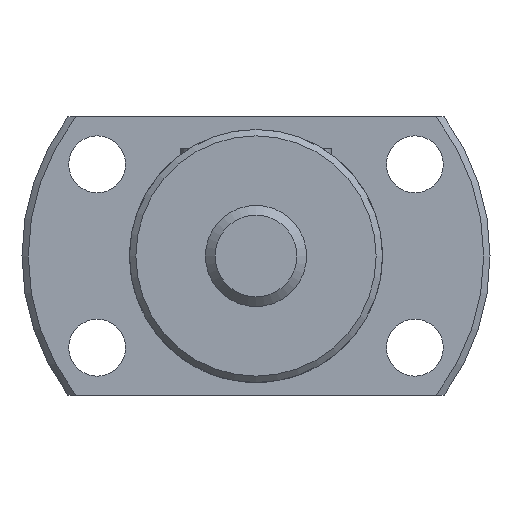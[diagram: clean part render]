
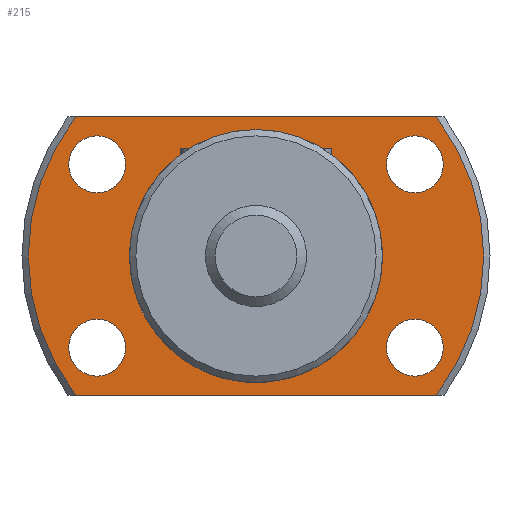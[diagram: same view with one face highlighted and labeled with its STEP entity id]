
A CAD part, left-side view. The second image highlights one B-rep face of the part: STEP entity #215.
In plain terms, the highlighted planar face has unit normal (-1, 0, 0) as drawn and (1, 0, 0) by its records, which use the part's own axes.
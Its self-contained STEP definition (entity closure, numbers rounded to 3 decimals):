
#215 = ADVANCED_FACE( '', ( #347, #348, #349, #350, #351, #352 ), #353, .T. );
#347 = FACE_OUTER_BOUND( '', #518, .T. );
#348 = FACE_BOUND( '', #519, .T. );
#349 = FACE_BOUND( '', #520, .T. );
#350 = FACE_BOUND( '', #521, .T. );
#351 = FACE_BOUND( '', #522, .T. );
#352 = FACE_BOUND( '', #523, .T. );
#353 = PLANE( '', #524 );
#518 = EDGE_LOOP( '', ( #908, #909, #910, #911 ) );
#519 = EDGE_LOOP( '', ( #912 ) );
#520 = EDGE_LOOP( '', ( #913 ) );
#521 = EDGE_LOOP( '', ( #914 ) );
#522 = EDGE_LOOP( '', ( #915 ) );
#523 = EDGE_LOOP( '', ( #916 ) );
#524 = AXIS2_PLACEMENT_3D( '', #917, #918, #919 );
#908 = ORIENTED_EDGE( '', *, *, #1183, .T. );
#909 = ORIENTED_EDGE( '', *, *, #1178, .T. );
#910 = ORIENTED_EDGE( '', *, *, #1177, .T. );
#911 = ORIENTED_EDGE( '', *, *, #1184, .T. );
#912 = ORIENTED_EDGE( '', *, *, #1185, .F. );
#913 = ORIENTED_EDGE( '', *, *, #1182, .F. );
#914 = ORIENTED_EDGE( '', *, *, #1186, .F. );
#915 = ORIENTED_EDGE( '', *, *, #1187, .F. );
#916 = ORIENTED_EDGE( '', *, *, #1188, .F. );
#917 = CARTESIAN_POINT( '', ( 5., 9.8, 0. ) );
#918 = DIRECTION( '', ( 1., 0., 0. ) );
#919 = DIRECTION( '', ( 0., 0., -1. ) );
#1177 = EDGE_CURVE( '', #1387, #1400, #1402, .T. );
#1178 = EDGE_CURVE( '', #1403, #1387, #1404, .T. );
#1182 = EDGE_CURVE( '', #1410, #1410, #1411, .T. );
#1183 = EDGE_CURVE( '', #1412, #1403, #1413, .T. );
#1184 = EDGE_CURVE( '', #1400, #1412, #1414, .T. );
#1185 = EDGE_CURVE( '', #1415, #1415, #1416, .T. );
#1186 = EDGE_CURVE( '', #1417, #1417, #1418, .T. );
#1187 = EDGE_CURVE( '', #1419, #1419, #1420, .T. );
#1188 = EDGE_CURVE( '', #1421, #1421, #1422, .T. );
#1387 = VERTEX_POINT( '', #1739 );
#1400 = VERTEX_POINT( '', #1764 );
#1402 = LINE( '', #1769, #1770 );
#1403 = VERTEX_POINT( '', #1771 );
#1404 = CIRCLE( '', #1772, 18. );
#1410 = VERTEX_POINT( '', #1781 );
#1411 = CIRCLE( '', #1782, 2.25 );
#1412 = VERTEX_POINT( '', #1783 );
#1413 = LINE( '', #1784, #1785 );
#1414 = CIRCLE( '', #1786, 18. );
#1415 = VERTEX_POINT( '', #1787 );
#1416 = CIRCLE( '', #1788, 9.8 );
#1417 = VERTEX_POINT( '', #1789 );
#1418 = CIRCLE( '', #1790, 2.25 );
#1419 = VERTEX_POINT( '', #1791 );
#1420 = CIRCLE( '', #1792, 2.25 );
#1421 = VERTEX_POINT( '', #1793 );
#1422 = CIRCLE( '', #1794, 2.25 );
#1739 = CARTESIAN_POINT( '', ( 5., 14.248, 11. ) );
#1764 = CARTESIAN_POINT( '', ( 5., -14.248, 11. ) );
#1769 = CARTESIAN_POINT( '', ( 5., 18.5, 11. ) );
#1770 = VECTOR( '', #2037, 1000. );
#1771 = CARTESIAN_POINT( '', ( 5., 14.248, -11. ) );
#1772 = AXIS2_PLACEMENT_3D( '', #2038, #2039, #2040 );
#1781 = CARTESIAN_POINT( '', ( 5., 12.557, 5. ) );
#1782 = AXIS2_PLACEMENT_3D( '', #2047, #2048, #2049 );
#1783 = CARTESIAN_POINT( '', ( 5., -14.248, -11. ) );
#1784 = CARTESIAN_POINT( '', ( 5., -18.5, -11. ) );
#1785 = VECTOR( '', #2050, 1000. );
#1786 = AXIS2_PLACEMENT_3D( '', #2051, #2052, #2053 );
#1787 = CARTESIAN_POINT( '', ( 5., 0., -9.8 ) );
#1788 = AXIS2_PLACEMENT_3D( '', #2054, #2055, #2056 );
#1789 = CARTESIAN_POINT( '', ( 5., -12.557, 5. ) );
#1790 = AXIS2_PLACEMENT_3D( '', #2057, #2058, #2059 );
#1791 = CARTESIAN_POINT( '', ( 5., -12.557, -9.5 ) );
#1792 = AXIS2_PLACEMENT_3D( '', #2060, #2061, #2062 );
#1793 = CARTESIAN_POINT( '', ( 5., 12.557, -9.5 ) );
#1794 = AXIS2_PLACEMENT_3D( '', #2063, #2064, #2065 );
#2037 = DIRECTION( '', ( 0., -1., 0. ) );
#2038 = CARTESIAN_POINT( '', ( 5., 0., 0. ) );
#2039 = DIRECTION( '', ( 1., 0., 0. ) );
#2040 = DIRECTION( '', ( 0., 0., -1. ) );
#2047 = CARTESIAN_POINT( '', ( 5., 12.557, 7.25 ) );
#2048 = DIRECTION( '', ( 1., 0., 0. ) );
#2049 = DIRECTION( '', ( 0., 0., -1. ) );
#2050 = DIRECTION( '', ( 0., 1., 0. ) );
#2051 = CARTESIAN_POINT( '', ( 5., 0., 0. ) );
#2052 = DIRECTION( '', ( 1., 0., 0. ) );
#2053 = DIRECTION( '', ( 0., 0., -1. ) );
#2054 = CARTESIAN_POINT( '', ( 5., 0., 0. ) );
#2055 = DIRECTION( '', ( 1., 0., 0. ) );
#2056 = DIRECTION( '', ( 0., 0., -1. ) );
#2057 = CARTESIAN_POINT( '', ( 5., -12.557, 7.25 ) );
#2058 = DIRECTION( '', ( 1., 0., 0. ) );
#2059 = DIRECTION( '', ( 0., 0., -1. ) );
#2060 = CARTESIAN_POINT( '', ( 5., -12.557, -7.25 ) );
#2061 = DIRECTION( '', ( 1., 0., 0. ) );
#2062 = DIRECTION( '', ( 0., 0., -1. ) );
#2063 = CARTESIAN_POINT( '', ( 5., 12.557, -7.25 ) );
#2064 = DIRECTION( '', ( 1., 0., 0. ) );
#2065 = DIRECTION( '', ( 0., 0., -1. ) );
